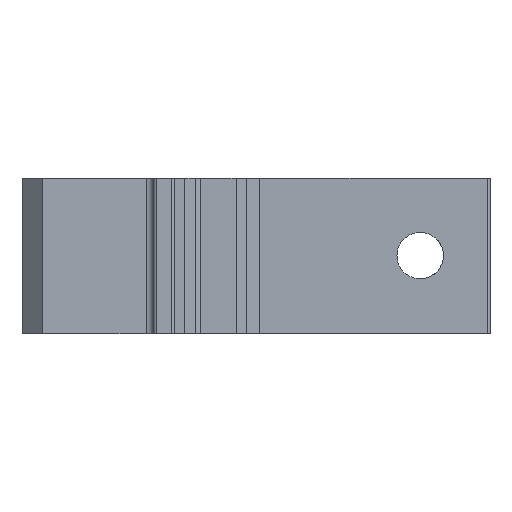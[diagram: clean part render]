
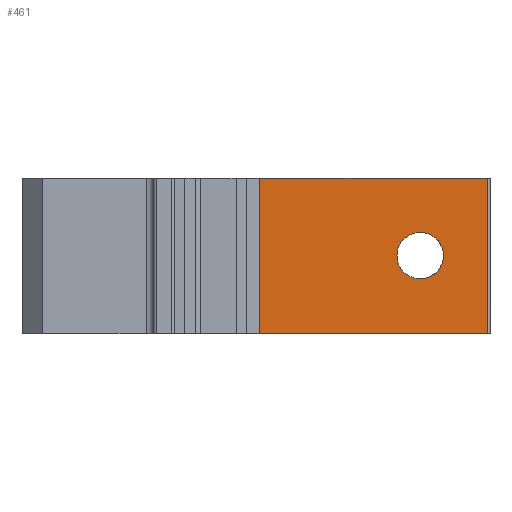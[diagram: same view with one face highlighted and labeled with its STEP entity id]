
A CAD part, left-side view. The second image highlights one B-rep face of the part: STEP entity #461.
In plain terms, the highlighted planar face has unit normal (-1, 0, 0).
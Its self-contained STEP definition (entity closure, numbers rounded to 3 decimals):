
#61 = CIRCLE ( 'NONE', #2528, 4.5 ) ;
#89 = EDGE_LOOP ( 'NONE', ( #665, #3423 ) ) ;
#139 = VERTEX_POINT ( 'NONE', #611 ) ;
#168 = CARTESIAN_POINT ( 'NONE',  ( 32.935, -21.4, 30. ) ) ;
#208 = DIRECTION ( 'NONE',  ( 0., 0., 1. ) ) ;
#279 = EDGE_CURVE ( 'NONE', #2336, #1651, #740, .T. ) ;
#316 = ORIENTED_EDGE ( 'NONE', *, *, #279, .T. ) ;
#461 = ADVANCED_FACE ( 'NONE', ( #2812, #3177 ), #2786, .F. ) ;
#565 = CARTESIAN_POINT ( 'NONE',  ( 32.935, 22.628, 30. ) ) ;
#611 = CARTESIAN_POINT ( 'NONE',  ( 32.935, -8.4, 19.5 ) ) ;
#636 = EDGE_CURVE ( 'NONE', #139, #2640, #61, .T. ) ;
#665 = ORIENTED_EDGE ( 'NONE', *, *, #636, .F. ) ;
#699 = DIRECTION ( 'NONE',  ( 0., 0., -1. ) ) ;
#736 = AXIS2_PLACEMENT_3D ( 'NONE', #3321, #1618, #2486 ) ;
#740 = LINE ( 'NONE', #1727, #3442 ) ;
#830 = CARTESIAN_POINT ( 'NONE',  ( 32.935, -8.4, 15. ) ) ;
#972 = ORIENTED_EDGE ( 'NONE', *, *, #2950, .T. ) ;
#1146 = LINE ( 'NONE', #1290, #2091 ) ;
#1290 = CARTESIAN_POINT ( 'NONE',  ( 32.935, -21.4, 30. ) ) ;
#1309 = DIRECTION ( 'NONE',  ( 0., -1., 0. ) ) ;
#1445 = CIRCLE ( 'NONE', #3057, 4.5 ) ;
#1475 = VECTOR ( 'NONE', #699, 1000. ) ;
#1598 = DIRECTION ( 'NONE',  ( 0., 0., -1. ) ) ;
#1618 = DIRECTION ( 'NONE',  ( 1., 0., 0. ) ) ;
#1651 = VERTEX_POINT ( 'NONE', #1895 ) ;
#1727 = CARTESIAN_POINT ( 'NONE',  ( 32.935, -21.4, 0. ) ) ;
#1834 = EDGE_CURVE ( 'NONE', #2642, #1651, #3223, .T. ) ;
#1895 = CARTESIAN_POINT ( 'NONE',  ( 32.935, -21.4, 0. ) ) ;
#1905 = EDGE_CURVE ( 'NONE', #2210, #2642, #1146, .T. ) ;
#1907 = EDGE_CURVE ( 'NONE', #2640, #139, #1445, .T. ) ;
#1960 = DIRECTION ( 'NONE',  ( 0., 0., 1. ) ) ;
#1977 = CARTESIAN_POINT ( 'NONE',  ( 32.935, -21.4, 30. ) ) ;
#2023 = CARTESIAN_POINT ( 'NONE',  ( 32.935, -8.4, 10.5 ) ) ;
#2091 = VECTOR ( 'NONE', #1309, 1000. ) ;
#2210 = VERTEX_POINT ( 'NONE', #565 ) ;
#2239 = ORIENTED_EDGE ( 'NONE', *, *, #1834, .F. ) ;
#2336 = VERTEX_POINT ( 'NONE', #2973 ) ;
#2459 = VECTOR ( 'NONE', #1598, 1000. ) ;
#2486 = DIRECTION ( 'NONE',  ( 0., 0., -1. ) ) ;
#2528 = AXIS2_PLACEMENT_3D ( 'NONE', #3105, #3741, #1960 ) ;
#2640 = VERTEX_POINT ( 'NONE', #2023 ) ;
#2642 = VERTEX_POINT ( 'NONE', #1977 ) ;
#2786 = PLANE ( 'NONE',  #736 ) ;
#2801 = DIRECTION ( 'NONE',  ( -1., 0., 0. ) ) ;
#2812 = FACE_BOUND ( 'NONE', #89, .T. ) ;
#2950 = EDGE_CURVE ( 'NONE', #2210, #2336, #3646, .T. ) ;
#2970 = ORIENTED_EDGE ( 'NONE', *, *, #1905, .F. ) ;
#2973 = CARTESIAN_POINT ( 'NONE',  ( 32.935, 22.628, 0. ) ) ;
#3057 = AXIS2_PLACEMENT_3D ( 'NONE', #830, #2801, #208 ) ;
#3105 = CARTESIAN_POINT ( 'NONE',  ( 32.935, -8.4, 15. ) ) ;
#3177 = FACE_OUTER_BOUND ( 'NONE', #3196, .T. ) ;
#3196 = EDGE_LOOP ( 'NONE', ( #316, #2239, #2970, #972 ) ) ;
#3223 = LINE ( 'NONE', #168, #2459 ) ;
#3321 = CARTESIAN_POINT ( 'NONE',  ( 32.935, -21.4, 30. ) ) ;
#3423 = ORIENTED_EDGE ( 'NONE', *, *, #1907, .F. ) ;
#3442 = VECTOR ( 'NONE', #3744, 1000. ) ;
#3568 = CARTESIAN_POINT ( 'NONE',  ( 32.935, 22.628, 30. ) ) ;
#3646 = LINE ( 'NONE', #3568, #1475 ) ;
#3741 = DIRECTION ( 'NONE',  ( -1., 0., 0. ) ) ;
#3744 = DIRECTION ( 'NONE',  ( 0., -1., 0. ) ) ;
